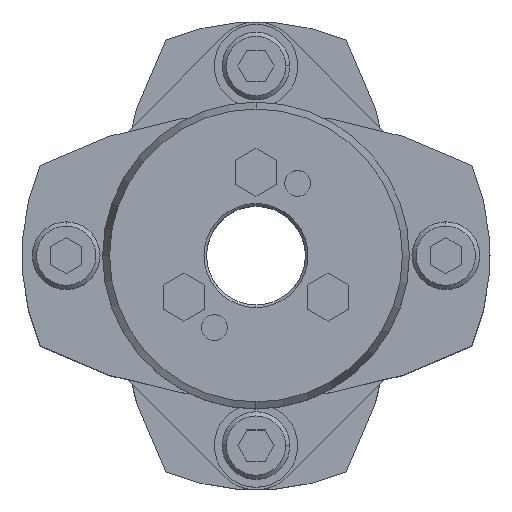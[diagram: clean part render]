
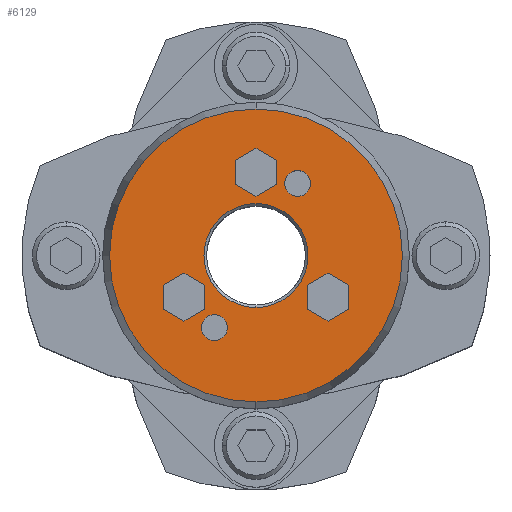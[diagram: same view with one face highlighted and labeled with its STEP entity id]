
A CAD part, top view. The second image highlights one B-rep face of the part: STEP entity #6129.
In plain terms, the highlighted planar face has unit normal (0, 0, 1).
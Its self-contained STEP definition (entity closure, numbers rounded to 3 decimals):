
#1677=CARTESIAN_POINT('',(0.,10.,52.0));
#1678=VERTEX_POINT('',#1677);
#1694=CARTESIAN_POINT('',(0.,-10.,52.0));
#1695=VERTEX_POINT('',#1694);
#1702=CARTESIAN_POINT('',(0.,0.,52.0));
#1703=DIRECTION('',(0.0,0.0,1.0));
#1704=DIRECTION('',(0.0,1.0,0.0));
#1705=AXIS2_PLACEMENT_3D('',#1702,#1703,#1704);
#1706=CIRCLE('',#1705,10.0);
#1707=EDGE_CURVE('',#1695,#1678,#1706,.T.);
#1865=CARTESIAN_POINT('',(0.,-28.16,52.0));
#1866=VERTEX_POINT('',#1865);
#1873=CARTESIAN_POINT('',(0.,28.16,52.0));
#1874=VERTEX_POINT('',#1873);
#1875=CARTESIAN_POINT('',(0.,0.,52.0));
#1876=DIRECTION('',(0.0,0.0,-1.0));
#1877=DIRECTION('',(0.0,-1.0,0.0));
#1878=AXIS2_PLACEMENT_3D('',#1875,#1876,#1877);
#1879=CIRCLE('',#1878,28.16);
#1880=EDGE_CURVE('',#1866,#1874,#1879,.T.);
#2123=CARTESIAN_POINT('',(8.,16.356,52.0));
#2124=VERTEX_POINT('',#2123);
#2140=CARTESIAN_POINT('',(8.,11.356,52.0));
#2141=VERTEX_POINT('',#2140);
#2148=CARTESIAN_POINT('',(8.,13.856,52.0));
#2149=DIRECTION('',(0.0,0.0,-1.0));
#2150=DIRECTION('',(0.0,1.0,0.0));
#2151=AXIS2_PLACEMENT_3D('',#2148,#2149,#2150);
#2152=CIRCLE('',#2151,2.5);
#2153=EDGE_CURVE('',#2124,#2141,#2152,.T.);
#2165=CARTESIAN_POINT('',(-8.,-11.356,52.0));
#2166=VERTEX_POINT('',#2165);
#2182=CARTESIAN_POINT('',(-8.,-16.356,52.0));
#2183=VERTEX_POINT('',#2182);
#2190=CARTESIAN_POINT('',(-8.,-13.856,52.0));
#2191=DIRECTION('',(0.0,0.0,-1.0));
#2192=DIRECTION('',(0.0,1.0,0.0));
#2193=AXIS2_PLACEMENT_3D('',#2190,#2191,#2192);
#2194=CIRCLE('',#2193,2.5);
#2195=EDGE_CURVE('',#2166,#2183,#2194,.T.);
#4645=CARTESIAN_POINT('',(13.856,-3.381,52.0));
#4646=VERTEX_POINT('',#4645);
#4653=CARTESIAN_POINT('',(9.856,-5.691,52.0));
#4654=VERTEX_POINT('',#4653);
#4655=CARTESIAN_POINT('',(9.856,-5.691,52.0));
#4656=DIRECTION('',(0.866,0.5,0.0));
#4657=VECTOR('',#4656,4.619);
#4658=LINE('',#4655,#4657);
#4659=EDGE_CURVE('',#4654,#4646,#4658,.T.);
#4683=CARTESIAN_POINT('',(17.856,-5.691,52.0));
#4684=VERTEX_POINT('',#4683);
#4691=CARTESIAN_POINT('',(13.856,-3.381,52.0));
#4692=DIRECTION('',(0.866,-0.5,0.0));
#4693=VECTOR('',#4692,4.619);
#4694=LINE('',#4691,#4693);
#4695=EDGE_CURVE('',#4646,#4684,#4694,.T.);
#4714=CARTESIAN_POINT('',(17.856,-10.309,52.0));
#4715=VERTEX_POINT('',#4714);
#4722=CARTESIAN_POINT('',(17.856,-5.691,52.0));
#4723=DIRECTION('',(0.0,-1.0,0.0));
#4724=VECTOR('',#4723,4.619);
#4725=LINE('',#4722,#4724);
#4726=EDGE_CURVE('',#4684,#4715,#4725,.T.);
#4745=CARTESIAN_POINT('',(13.856,-12.619,52.0));
#4746=VERTEX_POINT('',#4745);
#4753=CARTESIAN_POINT('',(17.856,-10.309,52.0));
#4754=DIRECTION('',(-0.866,-0.5,0.0));
#4755=VECTOR('',#4754,4.619);
#4756=LINE('',#4753,#4755);
#4757=EDGE_CURVE('',#4715,#4746,#4756,.T.);
#4776=CARTESIAN_POINT('',(9.856,-10.309,52.0));
#4777=VERTEX_POINT('',#4776);
#4784=CARTESIAN_POINT('',(13.856,-12.619,52.0));
#4785=DIRECTION('',(-0.866,0.5,0.0));
#4786=VECTOR('',#4785,4.619);
#4787=LINE('',#4784,#4786);
#4788=EDGE_CURVE('',#4746,#4777,#4787,.T.);
#4806=CARTESIAN_POINT('',(9.856,-10.309,52.0));
#4807=DIRECTION('',(0.0,1.0,0.0));
#4808=VECTOR('',#4807,4.619);
#4809=LINE('',#4806,#4808);
#4810=EDGE_CURVE('',#4777,#4654,#4809,.T.);
#4845=CARTESIAN_POINT('',(0.,20.619,52.0));
#4846=VERTEX_POINT('',#4845);
#4853=CARTESIAN_POINT('',(-4.,18.309,52.0));
#4854=VERTEX_POINT('',#4853);
#4855=CARTESIAN_POINT('',(-4.,18.309,52.0));
#4856=DIRECTION('',(0.866,0.5,0.0));
#4857=VECTOR('',#4856,4.619);
#4858=LINE('',#4855,#4857);
#4859=EDGE_CURVE('',#4854,#4846,#4858,.T.);
#4883=CARTESIAN_POINT('',(4.,18.309,52.0));
#4884=VERTEX_POINT('',#4883);
#4891=CARTESIAN_POINT('',(0.,20.619,52.0));
#4892=DIRECTION('',(0.866,-0.5,0.0));
#4893=VECTOR('',#4892,4.619);
#4894=LINE('',#4891,#4893);
#4895=EDGE_CURVE('',#4846,#4884,#4894,.T.);
#4914=CARTESIAN_POINT('',(4.,13.691,52.0));
#4915=VERTEX_POINT('',#4914);
#4922=CARTESIAN_POINT('',(4.,18.309,52.0));
#4923=DIRECTION('',(0.0,-1.0,0.0));
#4924=VECTOR('',#4923,4.619);
#4925=LINE('',#4922,#4924);
#4926=EDGE_CURVE('',#4884,#4915,#4925,.T.);
#4945=CARTESIAN_POINT('',(0.,11.381,52.0));
#4946=VERTEX_POINT('',#4945);
#4953=CARTESIAN_POINT('',(4.,13.691,52.0));
#4954=DIRECTION('',(-0.866,-0.5,0.0));
#4955=VECTOR('',#4954,4.619);
#4956=LINE('',#4953,#4955);
#4957=EDGE_CURVE('',#4915,#4946,#4956,.T.);
#4976=CARTESIAN_POINT('',(-4.,13.691,52.0));
#4977=VERTEX_POINT('',#4976);
#4984=CARTESIAN_POINT('',(0.,11.381,52.0));
#4985=DIRECTION('',(-0.866,0.5,0.0));
#4986=VECTOR('',#4985,4.619);
#4987=LINE('',#4984,#4986);
#4988=EDGE_CURVE('',#4946,#4977,#4987,.T.);
#5006=CARTESIAN_POINT('',(-4.,13.691,52.0));
#5007=DIRECTION('',(0.0,1.0,0.0));
#5008=VECTOR('',#5007,4.619);
#5009=LINE('',#5006,#5008);
#5010=EDGE_CURVE('',#4977,#4854,#5009,.T.);
#5045=CARTESIAN_POINT('',(-13.856,-3.381,52.0));
#5046=VERTEX_POINT('',#5045);
#5053=CARTESIAN_POINT('',(-17.856,-5.691,52.0));
#5054=VERTEX_POINT('',#5053);
#5055=CARTESIAN_POINT('',(-17.856,-5.691,52.0));
#5056=DIRECTION('',(0.866,0.5,0.0));
#5057=VECTOR('',#5056,4.619);
#5058=LINE('',#5055,#5057);
#5059=EDGE_CURVE('',#5054,#5046,#5058,.T.);
#5083=CARTESIAN_POINT('',(-9.856,-5.691,52.0));
#5084=VERTEX_POINT('',#5083);
#5091=CARTESIAN_POINT('',(-13.856,-3.381,52.0));
#5092=DIRECTION('',(0.866,-0.5,0.0));
#5093=VECTOR('',#5092,4.619);
#5094=LINE('',#5091,#5093);
#5095=EDGE_CURVE('',#5046,#5084,#5094,.T.);
#5114=CARTESIAN_POINT('',(-9.856,-10.309,52.0));
#5115=VERTEX_POINT('',#5114);
#5122=CARTESIAN_POINT('',(-9.856,-5.691,52.0));
#5123=DIRECTION('',(0.0,-1.0,0.0));
#5124=VECTOR('',#5123,4.619);
#5125=LINE('',#5122,#5124);
#5126=EDGE_CURVE('',#5084,#5115,#5125,.T.);
#5145=CARTESIAN_POINT('',(-13.856,-12.619,52.0));
#5146=VERTEX_POINT('',#5145);
#5153=CARTESIAN_POINT('',(-9.856,-10.309,52.0));
#5154=DIRECTION('',(-0.866,-0.5,0.0));
#5155=VECTOR('',#5154,4.619);
#5156=LINE('',#5153,#5155);
#5157=EDGE_CURVE('',#5115,#5146,#5156,.T.);
#5176=CARTESIAN_POINT('',(-17.856,-10.309,52.0));
#5177=VERTEX_POINT('',#5176);
#5184=CARTESIAN_POINT('',(-13.856,-12.619,52.0));
#5185=DIRECTION('',(-0.866,0.5,0.0));
#5186=VECTOR('',#5185,4.619);
#5187=LINE('',#5184,#5186);
#5188=EDGE_CURVE('',#5146,#5177,#5187,.T.);
#5206=CARTESIAN_POINT('',(-17.856,-10.309,52.0));
#5207=DIRECTION('',(0.0,1.0,0.0));
#5208=VECTOR('',#5207,4.619);
#5209=LINE('',#5206,#5208);
#5210=EDGE_CURVE('',#5177,#5054,#5209,.T.);
#5236=CARTESIAN_POINT('',(-8.,-13.856,52.0));
#5237=DIRECTION('',(0.0,0.0,-1.0));
#5238=DIRECTION('',(0.0,1.0,0.0));
#5239=AXIS2_PLACEMENT_3D('',#5236,#5237,#5238);
#5240=CIRCLE('',#5239,2.5);
#5241=EDGE_CURVE('',#2183,#2166,#5240,.T.);
#5270=CARTESIAN_POINT('',(8.,13.856,52.0));
#5271=DIRECTION('',(0.0,0.0,-1.0));
#5272=DIRECTION('',(0.0,1.0,0.0));
#5273=AXIS2_PLACEMENT_3D('',#5270,#5271,#5272);
#5274=CIRCLE('',#5273,2.5);
#5275=EDGE_CURVE('',#2141,#2124,#5274,.T.);
#6068=CARTESIAN_POINT('',(0.,0.,52.0));
#6069=DIRECTION('',(0.0,0.0,-1.0));
#6070=DIRECTION('',(0.0,-1.0,0.0));
#6071=AXIS2_PLACEMENT_3D('',#6068,#6069,#6070);
#6072=CIRCLE('',#6071,28.16);
#6073=EDGE_CURVE('',#1874,#1866,#6072,.T.);
#6078=CARTESIAN_POINT('',(0.,2.682,52.0));
#6079=DIRECTION('',(0.0,0.0,1.0));
#6080=DIRECTION('',(0.0,1.0,0.0));
#6081=AXIS2_PLACEMENT_3D('',#6078,#6079,#6080);
#6082=PLANE('',#6081);
#6083=ORIENTED_EDGE('',*,*,#6073,.F.);
#6084=ORIENTED_EDGE('',*,*,#1880,.F.);
#6085=EDGE_LOOP('',(#6083,#6084));
#6086=FACE_OUTER_BOUND('',#6085,.T.);
#6087=ORIENTED_EDGE('',*,*,#4659,.T.);
#6088=ORIENTED_EDGE('',*,*,#4695,.T.);
#6089=ORIENTED_EDGE('',*,*,#4726,.T.);
#6090=ORIENTED_EDGE('',*,*,#4757,.T.);
#6091=ORIENTED_EDGE('',*,*,#4788,.T.);
#6092=ORIENTED_EDGE('',*,*,#4810,.T.);
#6093=EDGE_LOOP('',(#6087,#6088,#6089,#6090,#6091,#6092));
#6094=FACE_BOUND('',#6093,.T.);
#6095=ORIENTED_EDGE('',*,*,#4859,.T.);
#6096=ORIENTED_EDGE('',*,*,#4895,.T.);
#6097=ORIENTED_EDGE('',*,*,#4926,.T.);
#6098=ORIENTED_EDGE('',*,*,#4957,.T.);
#6099=ORIENTED_EDGE('',*,*,#4988,.T.);
#6100=ORIENTED_EDGE('',*,*,#5010,.T.);
#6101=EDGE_LOOP('',(#6095,#6096,#6097,#6098,#6099,#6100));
#6102=FACE_BOUND('',#6101,.T.);
#6103=ORIENTED_EDGE('',*,*,#5059,.T.);
#6104=ORIENTED_EDGE('',*,*,#5095,.T.);
#6105=ORIENTED_EDGE('',*,*,#5126,.T.);
#6106=ORIENTED_EDGE('',*,*,#5157,.T.);
#6107=ORIENTED_EDGE('',*,*,#5188,.T.);
#6108=ORIENTED_EDGE('',*,*,#5210,.T.);
#6109=EDGE_LOOP('',(#6103,#6104,#6105,#6106,#6107,#6108));
#6110=FACE_BOUND('',#6109,.T.);
#6111=ORIENTED_EDGE('',*,*,#2195,.T.);
#6112=ORIENTED_EDGE('',*,*,#5241,.T.);
#6113=EDGE_LOOP('',(#6111,#6112));
#6114=FACE_BOUND('',#6113,.T.);
#6115=ORIENTED_EDGE('',*,*,#2153,.T.);
#6116=ORIENTED_EDGE('',*,*,#5275,.T.);
#6117=EDGE_LOOP('',(#6115,#6116));
#6118=FACE_BOUND('',#6117,.T.);
#6119=ORIENTED_EDGE('',*,*,#1707,.F.);
#6120=CARTESIAN_POINT('',(0.,0.,52.0));
#6121=DIRECTION('',(0.0,0.0,1.0));
#6122=DIRECTION('',(0.0,1.0,0.0));
#6123=AXIS2_PLACEMENT_3D('',#6120,#6121,#6122);
#6124=CIRCLE('',#6123,10.0);
#6125=EDGE_CURVE('',#1678,#1695,#6124,.T.);
#6126=ORIENTED_EDGE('',*,*,#6125,.F.);
#6127=EDGE_LOOP('',(#6119,#6126));
#6128=FACE_BOUND('',#6127,.T.);
#6129=ADVANCED_FACE('',(#6086,#6094,#6102,#6110,#6114,#6118,#6128),#6082,.T.);
